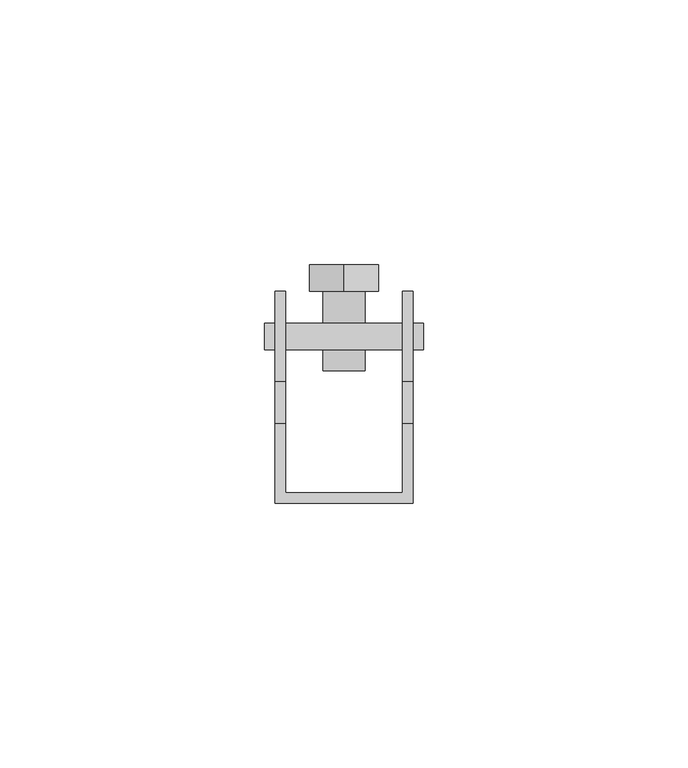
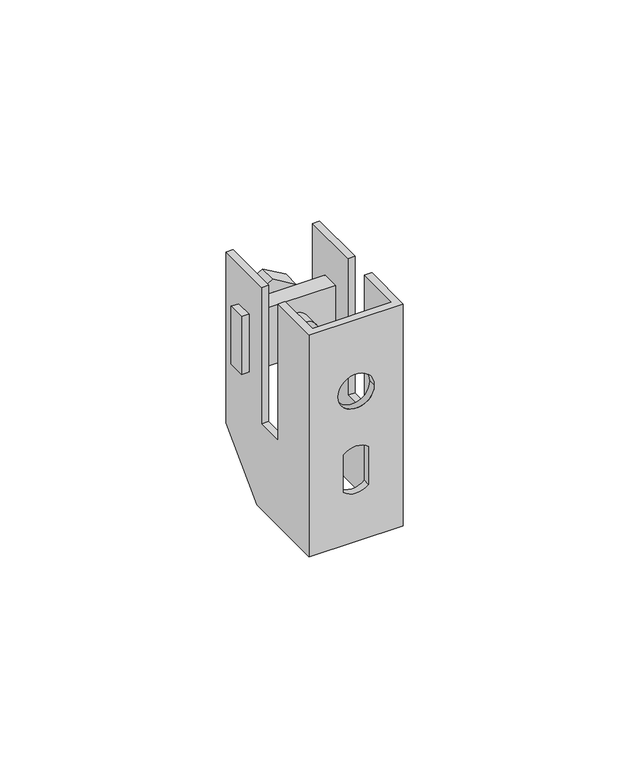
"""IFC4 building model written with IfcOpenShell, lengths in millimetres: proxy geometry, КНС_СкобаДержательПолосыСБолтом_DKC : ND2312CU_Медь_45 мм."""

from ifc_helpers import new_model, si_unit, point, frame, frame_2d, origin, place, context, project, spatial, polyline, circle_curve, trimmed, segment, composite_curve, outline, extrude, source, transform, mapped, element, save
from ifc_brep_helpers import plane_surface, revolved_surface, advanced_brep


def security_devices_49846fc6(model_context):
    return source(origin(), model_context, "Body", "SolidModel", [
        extrude(outline(polyline([(16.2448529, -6.4862755), (8.7551471, -6.4862755), (5.0102942, 0.0), (8.7551471, 6.4862755), (16.2448529, 6.4862755), (19.9897058, 0.0), (16.2448529, -6.4862755)])), frame((0.0, 40.0, 0.0), z_axis=(0.0, 1.0, 0.0), x_axis=(0.0, 0.0, 1.0)), (0.0, 0.0, 1.0), 5.0),
        extrude(outline(composite_curve([segment(trimmed(circle_curve(frame_2d((12.5, 0.0)), 4.0), [point((12.5, -4.0))], [point((12.5, 4.0))], False, "CARTESIAN"), True, "CONTINUOUS"), segment(trimmed(circle_curve(frame_2d((12.5, 0.0)), 4.0), [point((12.5, 4.0))], [point((12.5, -4.0))], False, "CARTESIAN"), True, "CONTINUOUS")], self_intersect=False)), frame((0.0, 25.0, 0.0), z_axis=(0.0, 1.0, 0.0), x_axis=(0.0, 0.0, 1.0)), (0.0, 0.0, 1.0), 15.0),
        advanced_brep(
        [(-11.0, 40.0, 32.5), (-13.0, 40.0, 32.5), (-13.0, 23.0, 32.5), (-11.0, 23.0, 32.5), (-13.0, 0.0, 32.5), (13.0, 0.0, 32.5), (13.0, 15.0, 32.5), (11.0, 15.0, 32.5), (11.0, 2.0, 32.5), (-11.0, 2.0, 32.5), (-11.0, 15.0, 32.5), (-13.0, 15.0, 32.5), (13.0, 40.0, 32.5), (11.0, 40.0, 32.5), (11.0, 23.0, 32.5), (13.0, 23.0, 32.5), (-11.0, 2.0, -32.5), (11.0, 2.0, -32.5), (11.0, 25.0, -32.5), (13.0, 25.0, -32.5), (13.0, 0.0, -32.5), (-13.0, 0.0, -32.5), (-13.0, 25.0, -32.5), (-11.0, 25.0, -32.5), (-11.0, 40.0, -17.5), (-13.0, 40.0, -17.5), (-13.0, 15.0, -7.5), (-13.0, 23.0, -7.5), (-13.0, 29.0, 21.0), (-13.0, 29.0, 4.0), (-13.0, 34.0, 4.0), (-13.0, 34.0, 21.0), (5.0, 0.0, 11.5), (-5.0, 0.0, 11.5), (-3.4548344, 0.0, -6.0), (3.4548344, 0.0, -6.0), (3.4548344, 0.0, -17.0), (-3.4548344, 0.0, -17.0), (13.0, 40.0, -17.5), (13.0, 23.0, -7.5), (13.0, 15.0, -7.5), (13.0, 29.0, 4.0), (13.0, 29.0, 21.0), (13.0, 34.0, 21.0), (13.0, 34.0, 4.0), (11.0, 40.0, -17.5), (11.0, 15.0, -7.5), (11.0, 23.0, -7.5), (11.0, 29.0, 21.0), (11.0, 29.0, 4.0), (11.0, 34.0, 4.0), (11.0, 34.0, 21.0), (-5.0, 2.0, 11.5), (5.0, 2.0, 11.5), (3.4548344, 2.0, -6.0), (-3.4548344, 2.0, -6.0), (-3.4548344, 2.0, -17.0), (3.4548344, 2.0, -17.0), (-11.0, 23.0, -7.5), (-11.0, 15.0, -7.5), (-11.0, 29.0, 4.0), (-11.0, 29.0, 21.0), (-11.0, 34.0, 21.0), (-11.0, 34.0, 4.0), (15.0, 29.0, 21.0), (15.0, 29.0, 4.0), (15.0, 34.0, 4.0), (15.0, 34.0, 21.0), (-15.0, 29.0, 21.0), (-15.0, 34.0, 21.0), (-15.0, 34.0, 4.0), (-15.0, 29.0, 4.0)],
        [
            (0, 1),
            (1, 2),
            (2, 3),
            (3, 0),
            (4, 5),
            (5, 6),
            (6, 7),
            (7, 8),
            (8, 9),
            (9, 10),
            (10, 11),
            (11, 4),
            (12, 13),
            (13, 14),
            (14, 15),
            (15, 12),
            (16, 17),
            (17, 18),
            (18, 19),
            (19, 20),
            (20, 21),
            (21, 22),
            (22, 23),
            (23, 16),
            (0, 24),
            (24, 25),
            (25, 1),
            (21, 4),
            (11, 26),
            (26, 27),
            (27, 2),
            (25, 22),
            (28, 29),
            (29, 30),
            (30, 31),
            (31, 28),
            (20, 5),
            (32, 33, circle_curve(frame((0.0, 0.0, 11.5), z_axis=(0.0, 1.0, 0.0), x_axis=(-1.0, 0.0, 0.0)), 5.0)),
            (33, 32, circle_curve(frame((0.0, 0.0, 11.5), z_axis=(0.0, 1.0, 0.0), x_axis=(-1.0, 0.0, 0.0)), 5.0)),
            (34, 35, circle_curve(frame((0.0, 0.0, -9.7470393), z_axis=(0.0, 1.0, 0.0), x_axis=(-1.0, 0.0, 0.0)), 5.0966836)),
            (35, 36),
            (36, 37, circle_curve(frame((0.0, 0.0, -13.2529607), z_axis=(0.0, 1.0, 0.0), x_axis=(-1.0, 0.0, 0.0)), 5.0966836)),
            (37, 34),
            (19, 38),
            (38, 12),
            (15, 39),
            (39, 40),
            (40, 6),
            (41, 42),
            (42, 43),
            (43, 44),
            (44, 41),
            (38, 45),
            (45, 13),
            (17, 8),
            (7, 46),
            (46, 47),
            (47, 14),
            (45, 18),
            (48, 49),
            (49, 50),
            (50, 51),
            (51, 48),
            (16, 9),
            (52, 53, circle_curve(frame((0.0, 2.0, 11.5), z_axis=(0.0, -1.0, 0.0), x_axis=(-1.0, 0.0, 0.0)), 5.0)),
            (53, 52, circle_curve(frame((0.0, 2.0, 11.5), z_axis=(0.0, -1.0, 0.0), x_axis=(-1.0, 0.0, 0.0)), 5.0)),
            (54, 55, circle_curve(frame((0.0, 2.0, -9.7470393), z_axis=(0.0, -1.0, 0.0), x_axis=(-1.0, 0.0, 0.0)), 5.0966836)),
            (55, 56),
            (56, 57, circle_curve(frame((0.0, 2.0, -13.2529607), z_axis=(0.0, -1.0, 0.0), x_axis=(-1.0, 0.0, 0.0)), 5.0966836)),
            (57, 54),
            (23, 24),
            (3, 58),
            (58, 59),
            (59, 10),
            (60, 61),
            (61, 62),
            (62, 63),
            (63, 60),
            (46, 40),
            (39, 47),
            (26, 59),
            (58, 27),
            (52, 33),
            (32, 53),
            (54, 35),
            (34, 55),
            (57, 36),
            (56, 37),
            (64, 65),
            (65, 66),
            (66, 67),
            (67, 64),
            (68, 69),
            (69, 70),
            (70, 71),
            (71, 68),
            (64, 42),
            (41, 65),
            (71, 29),
            (28, 68),
            (48, 61),
            (60, 49),
            (44, 66),
            (70, 30),
            (63, 50),
            (43, 67),
            (69, 31),
            (62, 51),
        ],
        [
            plane_surface(frame((-13.0, 40.0, 32.5), z_axis=(0.0, 0.0, 1.0), x_axis=(-1.0, 0.0, 0.0))),
            plane_surface(frame((-13.0, 40.0, -32.5), z_axis=(0.0, 0.0, -1.0), x_axis=(1.0, 0.0, 0.0))),
            plane_surface(frame((-11.0, 40.0, 32.5), z_axis=(0.0, 1.0, 0.0), x_axis=(0.0, 0.0, -1.0))),
            plane_surface(frame((-13.0, 40.0, 32.5), z_axis=(-1.0, 0.0, 0.0), x_axis=(0.0, 0.0, -1.0))),
            plane_surface(frame((-13.0, 0.0, 32.5), z_axis=(0.0, -1.0, 0.0), x_axis=(0.0, 0.0, -1.0))),
            plane_surface(frame((13.0, 0.0, 32.5), z_axis=(1.0, 0.0, 0.0), x_axis=(0.0, 0.0, -1.0))),
            plane_surface(frame((13.0, 40.0, 32.5), z_axis=(0.0, 1.0, 0.0), x_axis=(0.0, 0.0, -1.0))),
            plane_surface(frame((11.0, 40.0, 32.5), z_axis=(-1.0, 0.0, 0.0), x_axis=(0.0, 0.0, -1.0))),
            plane_surface(frame((11.0, 2.0, 32.5), z_axis=(0.0, 1.0, 0.0), x_axis=(0.0, 0.0, -1.0))),
            plane_surface(frame((-11.0, 2.0, 32.5), z_axis=(1.0, 0.0, 0.0), x_axis=(0.0, 0.0, -1.0))),
            plane_surface(frame((13.0, 15.0, -7.5), z_axis=(0.0, 0.0, 1.0), x_axis=(-1.0, 0.0, 0.0))),
            plane_surface(frame((13.0, 23.0, -7.5), z_axis=(0.0, -1.0, 0.0), x_axis=(-1.0, 0.0, 0.0))),
            plane_surface(frame((13.0, 15.0, 32.5), z_axis=(0.0, 1.0, 0.0), x_axis=(-1.0, 0.0, 0.0))),
            plane_surface(frame((13.0, 40.0, -17.5), z_axis=(0.0, 0.7071067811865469, -0.7071067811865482), x_axis=(-1.0, 0.0, 0.0))),
            revolved_surface(polyline([(-5.0, 2.0, 11.5), (-5.0, 0.0, 11.5)]), (0.0, 0.0, 11.5), (0.0, 1.0, 0.0)),
            revolved_surface(polyline([(-5.0966836, 2.0, -9.7470393), (-5.0966836, 0.0, -9.7470393)]), (0.0, 0.0, -9.7470393), (0.0, 1.0, 0.0)),
            plane_surface(frame((3.4548344, 2.0, -6.0), z_axis=(-1.0, 0.0, 0.0), x_axis=(0.0, -1.0, 0.0))),
            revolved_surface(polyline([(-5.0966836, 2.0, -13.2529607), (-5.0966836, 0.0, -13.2529607)]), (0.0, 0.0, -13.2529607), (0.0, 1.0, 0.0)),
            plane_surface(frame((-3.4548344, 2.0, -17.0), z_axis=(1.0, 0.0, 0.0), x_axis=(0.0, -1.0, 0.0))),
            plane_surface(frame((15.0, 29.0, 21.3489942), z_axis=(1.0, 0.0, 0.0), x_axis=(0.0, 0.0, -1.0))),
            plane_surface(frame((-15.0, 29.0, 21.3489942), z_axis=(-1.0, 0.0, 0.0), x_axis=(0.0, 0.0, 1.0))),
            plane_surface(frame((15.0, 29.0, 21.0), z_axis=(0.0, -1.0, 0.0), x_axis=(-1.0, 0.0, 0.0))),
            plane_surface(frame((15.0, 29.0, 4.0), z_axis=(0.0, 0.0, -1.0), x_axis=(-1.0, 0.0, 0.0))),
            plane_surface(frame((15.0, 34.0, 4.0), z_axis=(0.0, 1.0, 0.0), x_axis=(-1.0, 0.0, 0.0))),
            plane_surface(frame((15.0, 34.0, 21.0), z_axis=(0.0, 0.0, 1.0), x_axis=(-1.0, 0.0, 0.0))),
        ],
        [
            (0, [[1, 2, 3, 4]]),
            (0, [[5, 6, 7, 8, 9, 10, 11, 12]]),
            (0, [[13, 14, 15, 16]]),
            (1, [[17, 18, 19, 20, 21, 22, 23, 24]]),
            (2, [[-1, 25, 26, 27]]),
            (3, [[28, -12, 29, 30, 31, -2, -27, 32, -22], [33, 34, 35, 36]]),
            (4, [[-5, -28, -21, 37], [38, 39], [40, 41, 42, 43]]),
            (5, [[-37, -20, 44, 45, -16, 46, 47, 48, -6], [49, 50, 51, 52]]),
            (6, [[-13, -45, 53, 54]]),
            (7, [[55, -8, 56, 57, 58, -14, -54, 59, -18], [60, 61, 62, 63]]),
            (8, [[-9, -55, -17, 64], [65, 66], [67, 68, 69, 70]]),
            (9, [[-64, -24, 71, -25, -4, 72, 73, 74, -10], [75, 76, 77, 78]]),
            (10, [[79, -47, 80, -57]]),
            (10, [[81, -73, 82, -30]]),
            (11, [[-80, -46, -15, -58]]),
            (11, [[-82, -72, -3, -31]]),
            (12, [[-79, -56, -7, -48]]),
            (12, [[-81, -29, -11, -74]]),
            (13, [[-19, -59, -53, -44]]),
            (13, [[-23, -32, -26, -71]]),
            (14, [[83, -38, 84, -65]]),
            (14, [[-83, -66, -84, -39]]),
            (15, [[85, -40, 86, -67]]),
            (16, [[-85, -70, 87, -41]]),
            (17, [[-87, -69, 88, -42]]),
            (18, [[-86, -43, -88, -68]]),
            (19, [[89, 90, 91, 92]]),
            (20, [[93, 94, 95, 96]]),
            (21, [[-89, 97, -49, 98]]),
            (21, [[-96, 99, -33, 100]]),
            (21, [[101, -75, 102, -60]]),
            (22, [[-90, -98, -52, 103]]),
            (22, [[-95, 104, -34, -99]]),
            (22, [[-102, -78, 105, -61]]),
            (23, [[-91, -103, -51, 106]]),
            (23, [[-94, 107, -35, -104]]),
            (23, [[-105, -77, 108, -62]]),
            (24, [[-92, -106, -50, -97]]),
            (24, [[-93, -100, -36, -107]]),
            (24, [[-101, -63, -108, -76]]),
        ],
    ),
    ])


if __name__ == "__main__":
    model = new_model("IFC4")
    model_context = context("Model", 3, world=origin())
    ifc_project = project(units=[si_unit("LENGTHUNIT", "METRE", prefix="MILLI")], contexts=[model_context])
    site = spatial("IfcSite", under=ifc_project)
    building = spatial("IfcBuilding", under=site)
    placement = place(None, origin())
    security_devices_shape = security_devices_49846fc6(model_context)
    element("IfcBuildingElementProxy", 1, Name="КНС_СкобаДержательПолосыСБолтом_DKC : ND2312CU_Медь_45 мм", ObjectType="КНС_СкобаДержательПолосыСБолтом_DKC : ND2312CU_Медь_45 мм", at=placement, inside=building, context=model_context, shape_type="MappedRepresentation", body=[
        mapped(security_devices_shape, transform((0.0, 0.0, 0.0), x_axis=(1.0, 0.0, 0.0), y_axis=(0.0, 1.0, 0.0), z_axis=(0.0, 0.0, 1.0))),
    ])
    save(model, "model.ifc")
